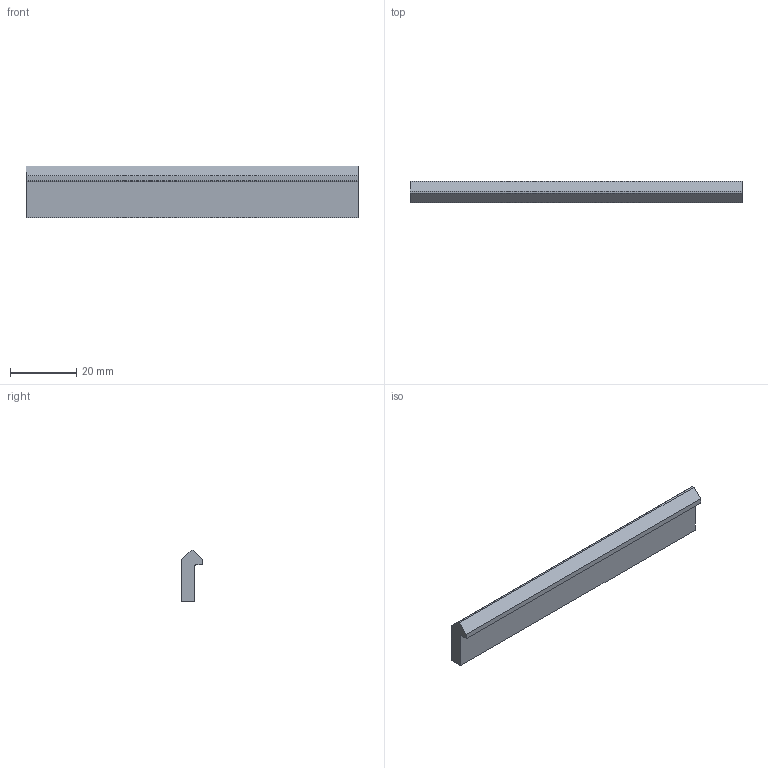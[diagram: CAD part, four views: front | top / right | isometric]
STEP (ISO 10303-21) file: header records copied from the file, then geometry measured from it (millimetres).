
FILE_DESCRIPTION((''),'2;1');
FILE_NAME('C:\Documents and Settings\土屋\My Documents\土屋移動用フォルダ\製品 (図面)\カタログ用3D\リニアガイド\VW\V2.stp','2015-02-21T14:06:27',('y'),(''),'Autodesk Inventor 11','Autodesk Inventor 11','');
FILE_SCHEMA(('AUTOMOTIVE_DESIGN { 1 0 10303 214 1 1 1 1 }'));
Length unit declared in the file: millimetre
Products named in the file (1): V2
Bounding box: 100 x 6.35 x 15.59 mm (x, y, z)
Volume: 6438.4 mm3; surface area: 4166.5 mm2
Topology: 1 solids, 1 shells, 11 faces, 27 edges, 18 vertices
Faces by surface type: plane 10, cylinder 1
Entity records: 346 total; most frequent: CARTESIAN_POINT 57, ORIENTED_EDGE 54, DIRECTION 53, EDGE_CURVE 27, VECTOR 25, LINE 25, VERTEX_POINT 18, AXIS2_PLACEMENT_3D 14
